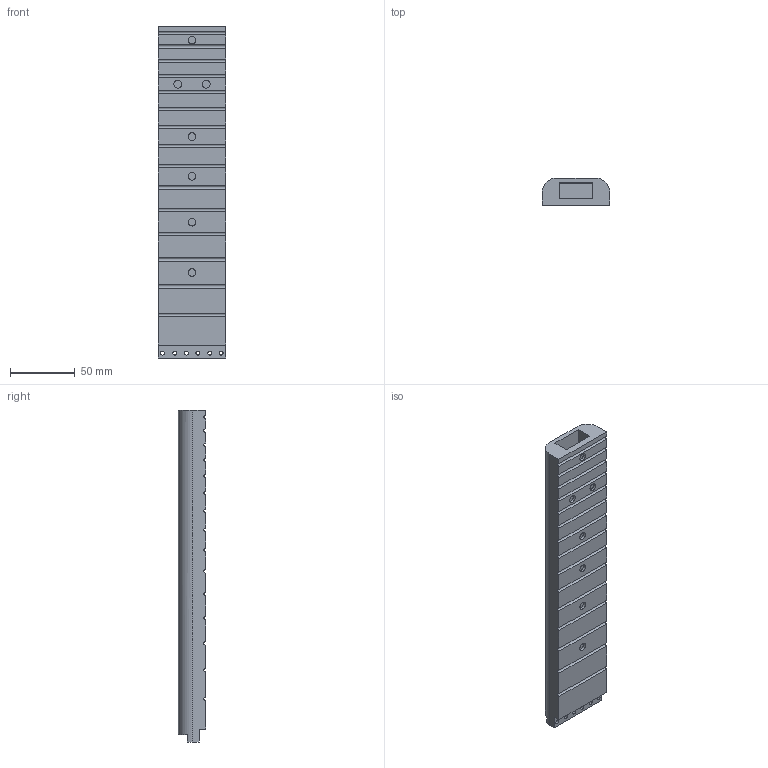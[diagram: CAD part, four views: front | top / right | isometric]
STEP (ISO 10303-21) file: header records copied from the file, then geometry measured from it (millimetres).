
FILE_DESCRIPTION(('STEP AP203'), '1');
FILE_NAME('neck all', '', ('UNSPECIFIED'), ('UNSPECIFIED'), 'ASCON STEP Converter 1.3', 'ASCON Math Kernel', '');
FILE_SCHEMA(('CONFIG_CONTROL_DESIGN'));
Length unit declared in the file: millimetre
Bounding box: 52 x 21 x 256 mm (x, y, z)
Volume: 180560.3 mm3; surface area: 57391 mm2
Topology: 1 solids, 1 shells, 67 faces, 171 edges, 114 vertices
Faces by surface type: plane 37, cylinder 30
Full cylindrical faces by diameter (mm): 3 x6, 6 x7
Entity records: 2586 total; most frequent: DIRECTION 356, CARTESIAN_POINT 340, ORIENTED_EDGE 316, EDGE_CURVE 158, AXIS2_PLACEMENT_3D 130, VERTEX_POINT 114, EDGE_LOOP 100, LINE 96
